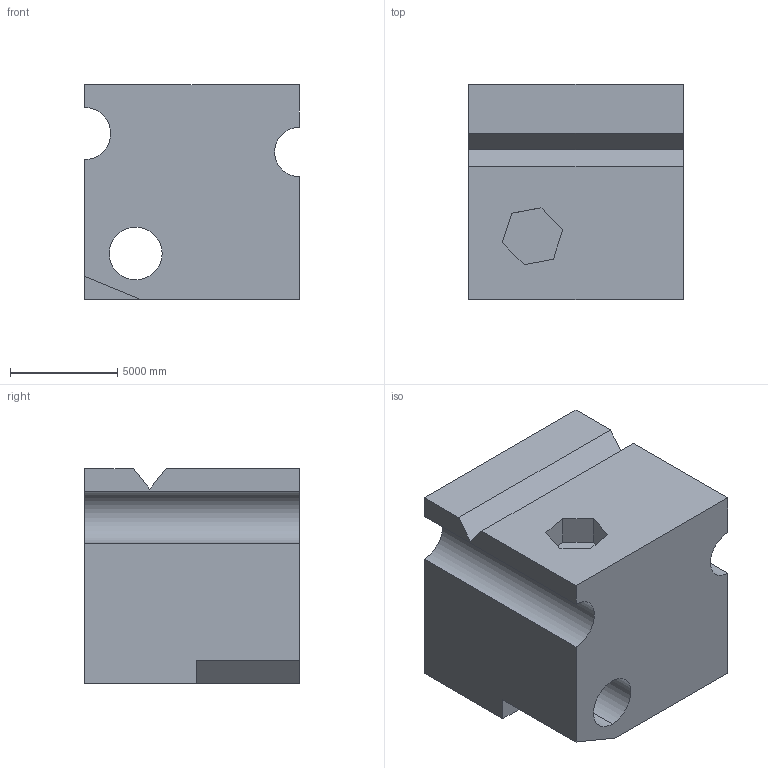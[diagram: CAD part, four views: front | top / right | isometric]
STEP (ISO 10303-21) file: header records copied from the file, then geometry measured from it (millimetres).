
FILE_DESCRIPTION (( 'STEP AP203' ), '1' );
FILE_NAME ('1614.STEP', '2022-08-26T13:18:21', ( 'user' ), ( '' ), 'SwSTEP 2.0', 'SolidWorks 2021', '' );
FILE_SCHEMA (( 'CONFIG_CONTROL_DESIGN' ));
Length unit declared in the file: centimetre
Products named in the file (1): 1614
Bounding box: 10000 x 10000 x 10000 mm (x, y, z)
Volume: 877793625046.1 mm3; surface area: 708117697.5 mm2
Topology: 1 solids, 1 shells, 28 faces, 75 edges, 50 vertices
Faces by surface type: plane 23, cylinder 5
Entity records: 950 total; most frequent: CARTESIAN_POINT 154, ORIENTED_EDGE 150, DIRECTION 143, EDGE_CURVE 75, VECTOR 65, LINE 65, VERTEX_POINT 50, AXIS2_PLACEMENT_3D 39
